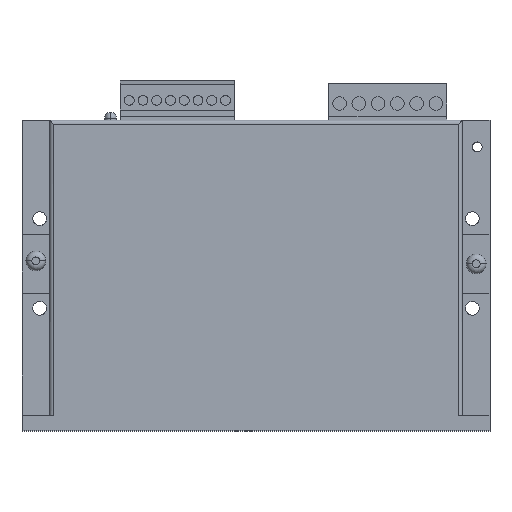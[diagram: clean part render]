
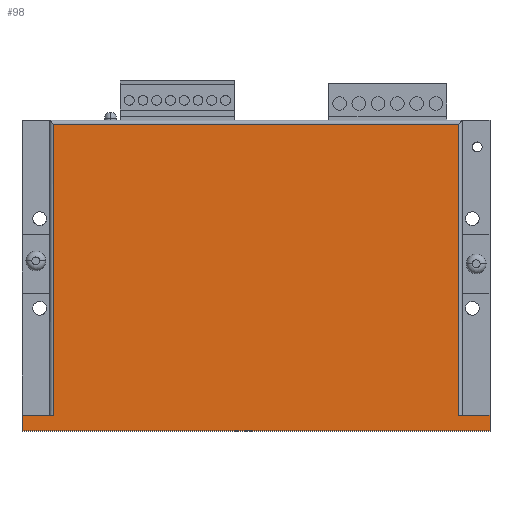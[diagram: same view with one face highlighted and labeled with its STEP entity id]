
A CAD part, top view. The second image highlights one B-rep face of the part: STEP entity #98.
In plain terms, the highlighted planar face has unit normal (0, 0, 1).
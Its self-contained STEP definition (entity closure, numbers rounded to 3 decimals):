
#39 = DIRECTION ( 'NONE',  ( 0., 1., 0. ) ) ;
#70 = VECTOR ( 'NONE', #11723, 1000. ) ;
#98 = ADVANCED_FACE ( 'NONE', ( #4783 ), #1293, .F. ) ;
#200 = VERTEX_POINT ( 'NONE', #864 ) ;
#495 = EDGE_CURVE ( 'NONE', #11319, #3939, #900, .T. ) ;
#532 = CARTESIAN_POINT ( 'NONE',  ( 0., 36.5, 29. ) ) ;
#549 = CARTESIAN_POINT ( 'NONE',  ( 59.5, -41.5, 29. ) ) ;
#818 = VERTEX_POINT ( 'NONE', #11172 ) ;
#861 = VERTEX_POINT ( 'NONE', #3529 ) ;
#864 = CARTESIAN_POINT ( 'NONE',  ( -59.5, -37.5, 29. ) ) ;
#886 = VECTOR ( 'NONE', #12800, 1000. ) ;
#900 = LINE ( 'NONE', #7853, #10084 ) ;
#1027 = CARTESIAN_POINT ( 'NONE',  ( -59.5, -37.5, 29. ) ) ;
#1173 = VECTOR ( 'NONE', #6971, 1000. ) ;
#1293 = PLANE ( 'NONE',  #3336 ) ;
#1480 = CARTESIAN_POINT ( 'NONE',  ( -59.5, -37.5, 29. ) ) ;
#1617 = ORIENTED_EDGE ( 'NONE', *, *, #7051, .F. ) ;
#1814 = CARTESIAN_POINT ( 'NONE',  ( 51.5, 36.5, 29. ) ) ;
#2014 = VERTEX_POINT ( 'NONE', #14651 ) ;
#3090 = ORIENTED_EDGE ( 'NONE', *, *, #495, .F. ) ;
#3208 = DIRECTION ( 'NONE',  ( -1., 0., 0. ) ) ;
#3209 = EDGE_CURVE ( 'NONE', #3838, #861, #10672, .T. ) ;
#3336 = AXIS2_PLACEMENT_3D ( 'NONE', #13797, #3671, #8246 ) ;
#3529 = CARTESIAN_POINT ( 'NONE',  ( -51.5, 36.5, 29. ) ) ;
#3602 = ORIENTED_EDGE ( 'NONE', *, *, #5651, .T. ) ;
#3671 = DIRECTION ( 'NONE',  ( 0., 0., -1. ) ) ;
#3838 = VERTEX_POINT ( 'NONE', #1814 ) ;
#3867 = LINE ( 'NONE', #1480, #886 ) ;
#3939 = VERTEX_POINT ( 'NONE', #13939 ) ;
#4059 = ORIENTED_EDGE ( 'NONE', *, *, #3209, .T. ) ;
#4783 = FACE_OUTER_BOUND ( 'NONE', #10764, .T. ) ;
#5059 = DIRECTION ( 'NONE',  ( -1., 0., 0. ) ) ;
#5440 = LINE ( 'NONE', #5586, #6613 ) ;
#5551 = LINE ( 'NONE', #1027, #12933 ) ;
#5586 = CARTESIAN_POINT ( 'NONE',  ( -59.5, -41.5, 29. ) ) ;
#5651 = EDGE_CURVE ( 'NONE', #818, #3838, #11285, .T. ) ;
#6392 = ORIENTED_EDGE ( 'NONE', *, *, #9955, .F. ) ;
#6613 = VECTOR ( 'NONE', #7654, 1000. ) ;
#6971 = DIRECTION ( 'NONE',  ( 0., -1., 0. ) ) ;
#6982 = CARTESIAN_POINT ( 'NONE',  ( 51.5, 0., 29. ) ) ;
#7051 = EDGE_CURVE ( 'NONE', #2014, #11319, #10752, .T. ) ;
#7654 = DIRECTION ( 'NONE',  ( 0., 1., 0. ) ) ;
#7853 = CARTESIAN_POINT ( 'NONE',  ( -59.5, -41.5, 29. ) ) ;
#7938 = ORIENTED_EDGE ( 'NONE', *, *, #9984, .F. ) ;
#8007 = CARTESIAN_POINT ( 'NONE',  ( -51.5, 0., 29. ) ) ;
#8246 = DIRECTION ( 'NONE',  ( 0., -1., 0. ) ) ;
#9222 = EDGE_CURVE ( 'NONE', #3939, #200, #5440, .T. ) ;
#9337 = EDGE_CURVE ( 'NONE', #861, #12078, #13623, .T. ) ;
#9346 = VECTOR ( 'NONE', #39, 1000. ) ;
#9755 = CARTESIAN_POINT ( 'NONE',  ( 59.5, -41.5, 29. ) ) ;
#9955 = EDGE_CURVE ( 'NONE', #200, #12078, #3867, .T. ) ;
#9984 = EDGE_CURVE ( 'NONE', #818, #2014, #5551, .T. ) ;
#10084 = VECTOR ( 'NONE', #3208, 1000. ) ;
#10658 = VECTOR ( 'NONE', #5059, 1000. ) ;
#10672 = LINE ( 'NONE', #532, #10658 ) ;
#10752 = LINE ( 'NONE', #549, #70 ) ;
#10764 = EDGE_LOOP ( 'NONE', ( #13497, #6392, #14468, #3090, #1617, #7938, #3602, #4059 ) ) ;
#10937 = DIRECTION ( 'NONE',  ( 1., 0., 0. ) ) ;
#11172 = CARTESIAN_POINT ( 'NONE',  ( 51.5, -37.5, 29. ) ) ;
#11285 = LINE ( 'NONE', #6982, #9346 ) ;
#11319 = VERTEX_POINT ( 'NONE', #9755 ) ;
#11723 = DIRECTION ( 'NONE',  ( 0., -1., 0. ) ) ;
#12078 = VERTEX_POINT ( 'NONE', #12972 ) ;
#12800 = DIRECTION ( 'NONE',  ( 1., 0., 0. ) ) ;
#12933 = VECTOR ( 'NONE', #10937, 1000. ) ;
#12972 = CARTESIAN_POINT ( 'NONE',  ( -51.5, -37.5, 29. ) ) ;
#13497 = ORIENTED_EDGE ( 'NONE', *, *, #9337, .T. ) ;
#13623 = LINE ( 'NONE', #8007, #1173 ) ;
#13797 = CARTESIAN_POINT ( 'NONE',  ( 0., 0., 29. ) ) ;
#13939 = CARTESIAN_POINT ( 'NONE',  ( -59.5, -41.5, 29. ) ) ;
#14468 = ORIENTED_EDGE ( 'NONE', *, *, #9222, .F. ) ;
#14651 = CARTESIAN_POINT ( 'NONE',  ( 59.5, -37.5, 29. ) ) ;
